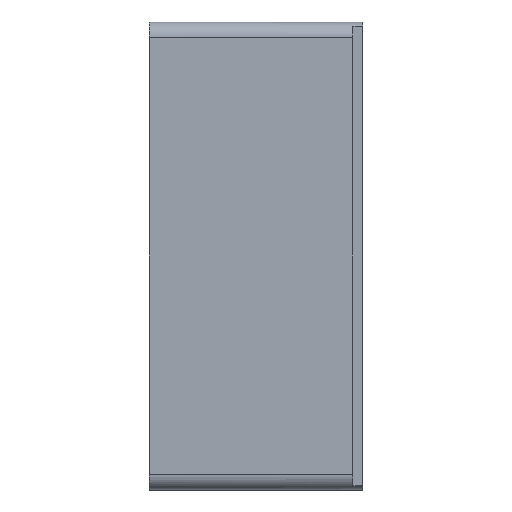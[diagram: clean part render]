
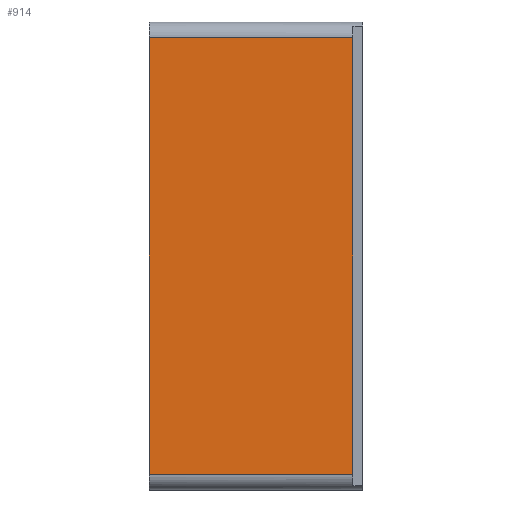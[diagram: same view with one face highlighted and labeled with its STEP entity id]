
A CAD part, left-side view. The second image highlights one B-rep face of the part: STEP entity #914.
In plain terms, the highlighted planar face has unit normal (-1, 0, 0).
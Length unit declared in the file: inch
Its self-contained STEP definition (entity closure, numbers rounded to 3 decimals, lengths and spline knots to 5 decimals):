
#100 = PLANE ( 'NONE',  #2304 ) ;
#119 = LINE ( 'NONE', #2075, #1190 ) ;
#217 = VECTOR ( 'NONE', #1197, 39.37008 ) ;
#266 = ORIENTED_EDGE ( 'NONE', *, *, #1036, .T. ) ;
#275 = ORIENTED_EDGE ( 'NONE', *, *, #901, .F. ) ;
#284 = VECTOR ( 'NONE', #1852, 39.37008 ) ;
#298 = DIRECTION ( 'NONE',  ( 1., 0., 0. ) ) ;
#508 = VERTEX_POINT ( 'NONE', #1606 ) ;
#597 = VECTOR ( 'NONE', #932, 39.37008 ) ;
#637 = CARTESIAN_POINT ( 'NONE',  ( 0., 1., 0. ) ) ;
#796 = CARTESIAN_POINT ( 'NONE',  ( 0., 1., -21.9877 ) ) ;
#825 = CARTESIAN_POINT ( 'NONE',  ( 0., 21.5, -21.9877 ) ) ;
#837 = LINE ( 'NONE', #1747, #217 ) ;
#901 = EDGE_CURVE ( 'NONE', #2423, #2635, #119, .T. ) ;
#913 = EDGE_CURVE ( 'NONE', #1438, #2635, #2468, .T. ) ;
#914 = ADVANCED_FACE ( 'NONE', ( #2330 ), #100, .F. ) ;
#932 = DIRECTION ( 'NONE',  ( 0., 0., -1. ) ) ;
#1007 = CARTESIAN_POINT ( 'NONE',  ( 0., 21.5, 21.9877 ) ) ;
#1036 = EDGE_CURVE ( 'NONE', #2423, #508, #2551, .T. ) ;
#1048 = EDGE_CURVE ( 'NONE', #508, #1438, #837, .T. ) ;
#1190 = VECTOR ( 'NONE', #1831, 39.37008 ) ;
#1197 = DIRECTION ( 'NONE',  ( 0., 1., 0. ) ) ;
#1204 = EDGE_LOOP ( 'NONE', ( #1588, #275, #266, #2241 ) ) ;
#1438 = VERTEX_POINT ( 'NONE', #1007 ) ;
#1588 = ORIENTED_EDGE ( 'NONE', *, *, #913, .T. ) ;
#1592 = CARTESIAN_POINT ( 'NONE',  ( 0., 0., 23.5625 ) ) ;
#1606 = CARTESIAN_POINT ( 'NONE',  ( 0., 1., 21.9877 ) ) ;
#1747 = CARTESIAN_POINT ( 'NONE',  ( 0., 0., 21.9877 ) ) ;
#1817 = DIRECTION ( 'NONE',  ( 0., 0., -1. ) ) ;
#1831 = DIRECTION ( 'NONE',  ( 0., 1., 0. ) ) ;
#1852 = DIRECTION ( 'NONE',  ( 0., 0., 1. ) ) ;
#2075 = CARTESIAN_POINT ( 'NONE',  ( 0., 0., -21.9877 ) ) ;
#2241 = ORIENTED_EDGE ( 'NONE', *, *, #1048, .T. ) ;
#2304 = AXIS2_PLACEMENT_3D ( 'NONE', #1592, #298, #1817 ) ;
#2330 = FACE_OUTER_BOUND ( 'NONE', #1204, .T. ) ;
#2423 = VERTEX_POINT ( 'NONE', #796 ) ;
#2468 = LINE ( 'NONE', #2507, #597 ) ;
#2507 = CARTESIAN_POINT ( 'NONE',  ( 0., 21.5, 23.5625 ) ) ;
#2551 = LINE ( 'NONE', #637, #284 ) ;
#2635 = VERTEX_POINT ( 'NONE', #825 ) ;
